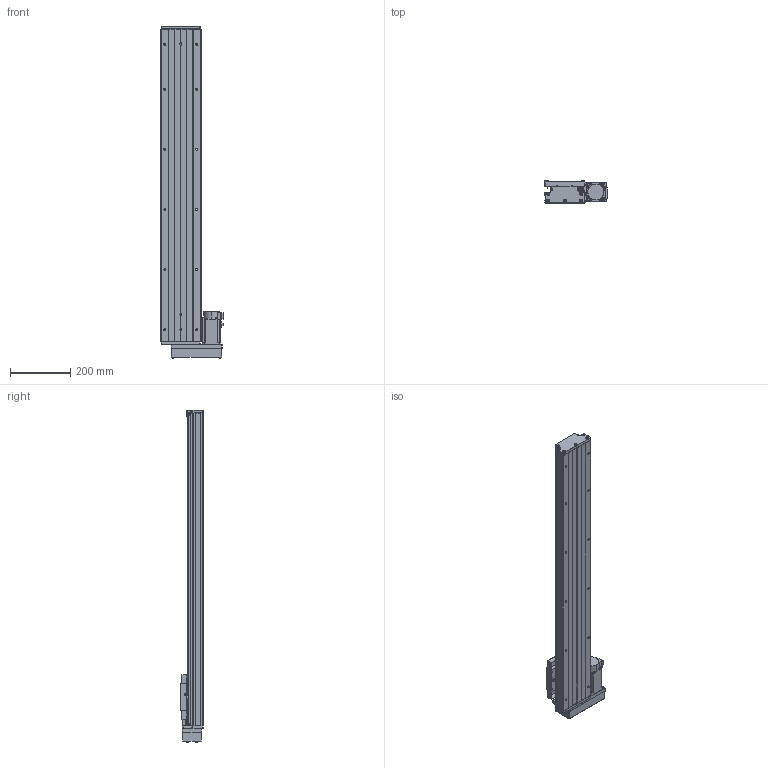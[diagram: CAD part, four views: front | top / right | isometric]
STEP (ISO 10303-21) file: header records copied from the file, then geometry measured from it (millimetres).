
FILE_DESCRIPTION (( 'STEP AP203' ), '1' );
FILE_NAME ('CTH130-850-BR-M40-C4.step', '2023-06-30T02:53:24', ( '微软用户' ), ( '微软中国' ), 'SwSTEP 2.0', 'SolidWorks 2020', '' );
FILE_SCHEMA (( 'CONFIG_CONTROL_DESIGN' ));
Length unit declared in the file: millimetre
Products named in the file (20): GB1155-6X6; CTH130-002_GTH14-002; CTH130-031; CTH130-850-BR-M40-C4; GBT70.1 M5℅16; GBT 70.2-M3¡Á5_M3¡Á6; CTHA60-017; す晦芛蹟隊 M3℅5; EE_SX911P_R; HG-KN43J-S100; GB T308.1-2013-6.35; GTH14-033; CTHA60-016; GBT 70.2-M4¡Á35_M4¡Á35; GTH14-004; GBT 70.1-M3℅5; GTH14-015-2_CTHA86-015-2; GTH14-005; GTH14-001_850; GBT77-2000 M3×3
Assembly tree (60 placements, depth 2):
  CTH130-850-BR-M40-C4
    GTH14-001_850
    CTH130-002_GTH14-002
    GB T308.1-2013-6.35  x2
    GTH14-004
    GTH14-005
    GB1155-6X6  x2
    GBT70.1 M5℅16  x10
    CTHA60-017  x3
    EE_SX911P_R  x3
    CTHA60-016  x2
    GBT 70.1-M3℅5  x6
    GBT77-2000 M3×3  x6
    CTH130-031
    GBT 70.2-M3¡Á5_M3¡Á6  x8
    す晦芛蹟隊 M3℅5  x6
    HG-KN43J-S100
    GBT 70.2-M4¡Á35_M4¡Á35  x4
    GTH14-015-2_CTHA86-015-2
    GTH14-033
Bounding box: 209.3 x 76 x 1104.2 mm (x, y, z)
Volume: 5829288.3 mm3; surface area: 956978 mm2
Topology: 63 solids, 63 shells, 2445 faces, 5821 edges, 3601 vertices
Faces by surface type: plane 1312, cylinder 654, cone 299, torus 124, sphere 36, bspline 20
Entity records: 44232 total; most frequent: CARTESIAN_POINT 9897, DIRECTION 6462, ORIENTED_EDGE 6348, EDGE_CURVE 3174, AXIS2_PLACEMENT_3D 2210, LINE 2042, VECTOR 2042, VERTEX_POINT 2011
